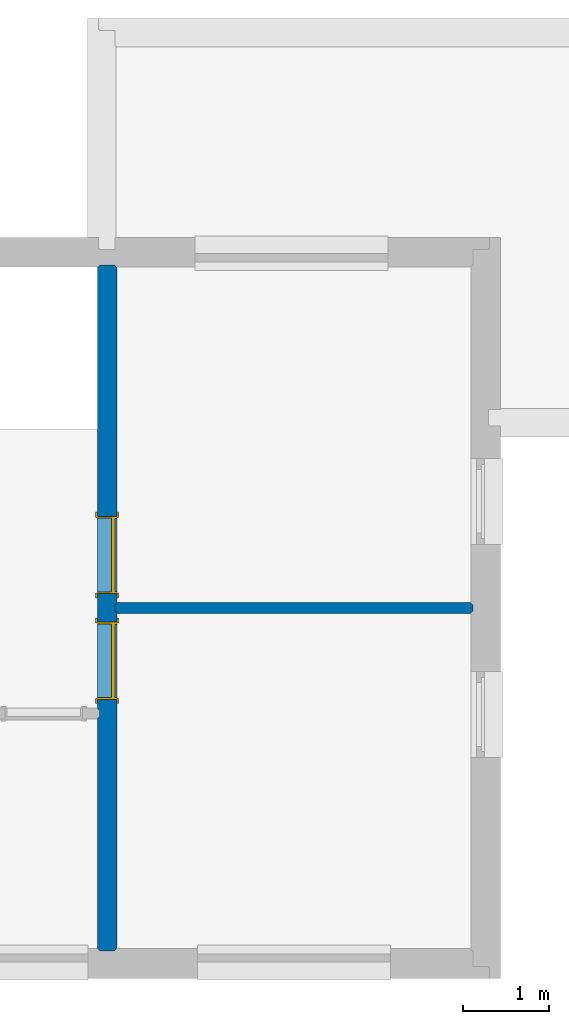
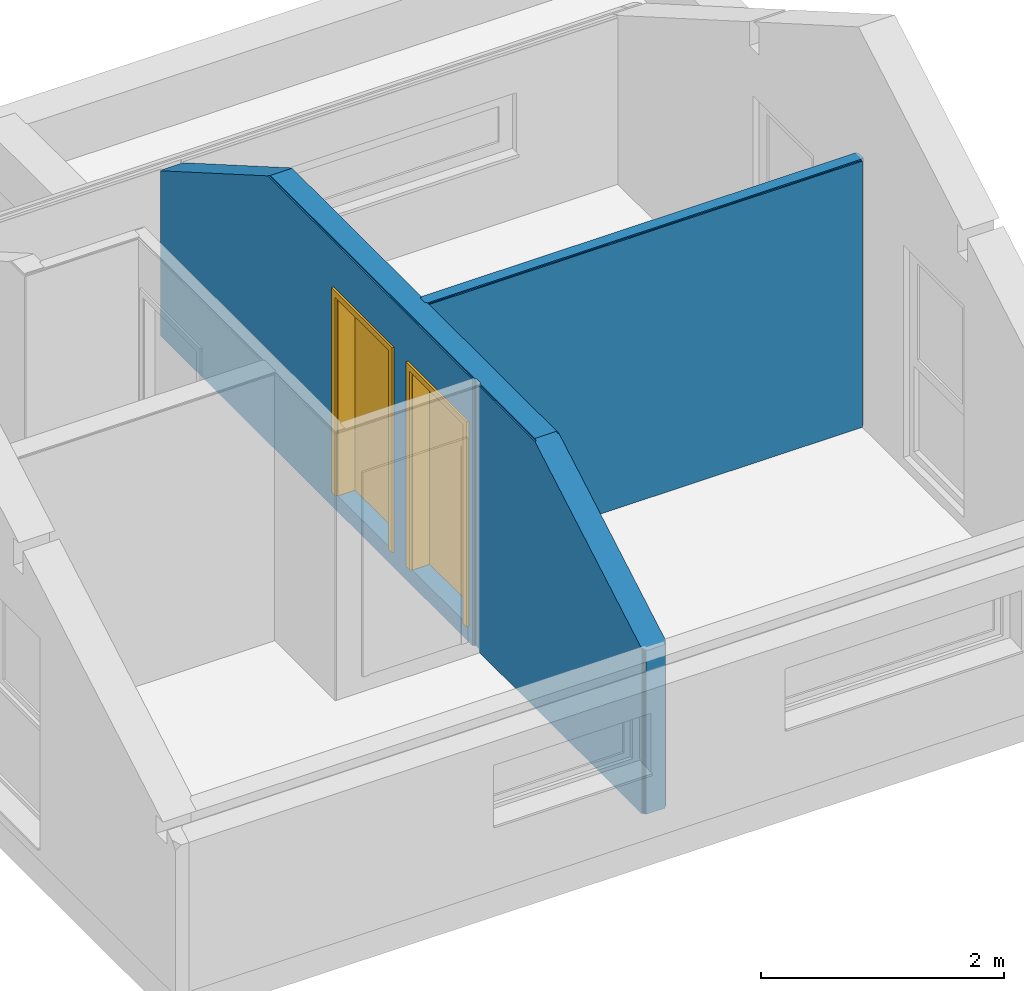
# One storey, part 5 of 7: 2 doors, 2 walls, 2 openings.
"""IFC2X3 building model written with IfcOpenShell, lengths in millimetres."""

from ifc_helpers import new_model, entity, si_unit, converted_unit, derived_unit, money_unit, direction, frame, origin_with_axes, place, context, subcontext, project, spatial, faceted_brep, material, material_list, type_object, element, fill, save


model = new_model("IFC2X3")

# Units and contexts
model_context = context("Model", 3, precision=0.01, world=origin_with_axes(), true_north=direction((0.0, 1.0)))
body_context = subcontext(model_context, "Body", "Model", "MODEL_VIEW")
ifc_project = project(units=[si_unit("LENGTHUNIT", "METRE", prefix="MILLI"), si_unit("AREAUNIT", "SQUARE_METRE"), si_unit("VOLUMEUNIT", "CUBIC_METRE"), converted_unit("PLANEANGLEUNIT", "DEGREE", entity("IfcPlaneAngleMeasure", 0.0174532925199), si_unit("PLANEANGLEUNIT", "RADIAN"), dimensions=[0, 0, 0, 0, 0, 0, 0]), si_unit("SOLIDANGLEUNIT", "STERADIAN"), money_unit("USD"), converted_unit("TIMEUNIT", "Year", entity("IfcTimeMeasure", 31556926.0), si_unit("TIMEUNIT", "SECOND"), dimensions=[0, 0, 1, 0, 0, 0, 0]), si_unit("MASSUNIT", "GRAM", prefix="KILO"), si_unit("THERMODYNAMICTEMPERATUREUNIT", "DEGREE_CELSIUS"), si_unit("LUMINOUSINTENSITYUNIT", "LUMEN"), si_unit("ENERGYUNIT", "JOULE", prefix="MEGA"), derived_unit("THERMALCONDUCTANCEUNIT", [(si_unit("POWERUNIT", "WATT"), 1), (si_unit("LENGTHUNIT", "METRE"), -1), (si_unit("THERMODYNAMICTEMPERATUREUNIT", "KELVIN"), -1)]), derived_unit("SPECIFICHEATCAPACITYUNIT", [(si_unit("ENERGYUNIT", "JOULE"), 1), (si_unit("MASSUNIT", "GRAM", prefix="KILO"), -1), (si_unit("THERMODYNAMICTEMPERATUREUNIT", "KELVIN"), -1)]), derived_unit("MASSDENSITYUNIT", [(si_unit("MASSUNIT", "GRAM", prefix="KILO"), 1), (si_unit("VOLUMEUNIT", "CUBIC_METRE"), -1)])], contexts=[model_context])

# Site, building, storey
site_placement = place(None, origin_with_axes())
site = spatial("IfcSite", under=ifc_project, at=site_placement, Name="Lokalizacja", CompositionType="ELEMENT")
building_placement = place(site_placement, origin_with_axes())
building = spatial("IfcBuilding", under=site, at=building_placement, Name="Budynek", CompositionType="ELEMENT")
storey_placement = place(building_placement, frame((0.0, 0.0, 2954.0), z_axis=(0.0, 0.0, 1.0), x_axis=(1.0, 0.0, 0.0)))
storey = spatial("IfcBuildingStorey", under=building, at=storey_placement, Name="DG", CompositionType="ELEMENT", Elevation=2954.0)

# Wall
ifc_material_1 = material(Name="Płyta GK")
ifc_material_2 = material(Name="Płyta OSB")
ifc_material_3 = material(Name="Drewno konstrukcyjne")
ifc_material_list = material_list([ifc_material_1, ifc_material_2, ifc_material_3, ifc_material_2, ifc_material_1])
wall_type_1 = type_object("IfcWallType", Name="022- _dan_SD_130 130", PredefinedType="NOTDEFINED")
wall_1_placement = place(storey_placement, frame((8640.00006108, -3899.99907417, -160.0), z_axis=(0.0, 0.0, 1.0), x_axis=(-1.0, 0.0, 0.0)))
element("IfcWall", 1, at=wall_1_placement, inside=storey, type_object=wall_type_1, material=ifc_material_list, Name="SW1", context=body_context, shape_type="Brep", body=[
    faceted_brep([(4120.00006107, 117.0, 2678.0), (-6.12343757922e-05, 117.0, 2678.0), (0.0, 117.0, 0.0), (4120.00006107, 117.0, 0.0), (-6.12343757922e-05, 130.0, 2678.0), (4120.00006107, 130.0, 2678.0), (0.0, 130.0, 0.0), (4120.00006107, 130.0, 0.0)], [[[0, 1, 2, 3]], [[4, 1, 0, 5]], [[1, 4, 6, 2]], [[7, 3, 2, 6]], [[5, 0, 3, 7]], [[4, 5, 7, 6]]]),
    faceted_brep([(4133.00006107, 117.0, 2690.0), (-13.0, 117.0, 2690.0), (-13.0, 105.0, 2690.0), (4133.00006107, 105.0, 2690.0), (4133.00006107, 117.0, 0.0), (-13.0, 117.0, 0.0), (-13.0, 105.0, 0.0), (4133.00006107, 105.0, 0.0)], [[[0, 1, 2, 3]], [[4, 5, 1, 0]], [[2, 1, 5, 6]], [[3, 2, 6, 7]], [[3, 7, 4, 0]], [[7, 6, 5, 4]]]),
    faceted_brep([(4145.00006107, 105.0, 2690.0), (-25.0, 105.0, 2690.0), (-25.0, 25.0, 2690.0), (4145.00006107, 25.0, 2690.0), (4145.00006107, 105.0, 0.0), (-25.0, 105.0, 0.0), (-25.0, 25.0, 0.0), (4145.00006107, 25.0, 0.0)], [[[0, 1, 2, 3]], [[4, 5, 1, 0]], [[2, 1, 5, 6]], [[3, 2, 6, 7]], [[3, 7, 4, 0]], [[7, 6, 5, 4]]]),
    faceted_brep([(4133.00006107, 25.0, 2690.0), (-13.0, 25.0, 2690.0), (-13.0, 13.0, 2690.0), (4133.00006107, 13.0, 2690.0), (4133.00006107, 25.0, 0.0), (-13.0, 25.0, 0.0), (-13.0, 13.0, 0.0), (4133.00006107, 13.0, 0.0)], [[[0, 1, 2, 3]], [[4, 5, 1, 0]], [[2, 1, 5, 6]], [[3, 2, 6, 7]], [[3, 7, 4, 0]], [[7, 6, 5, 4]]]),
    faceted_brep([(4120.00006107, 0.0, 2678.0), (-6.12343757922e-05, 0.0, 2678.0), (0.0, 0.0, 0.0), (4120.00006107, 0.0, 0.0), (-6.12343757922e-05, 13.0, 2678.0), (4120.00006107, 13.0, 2678.0), (0.0, 13.0, 0.0), (4120.00006107, 13.0, 0.0)], [[[0, 1, 2, 3]], [[4, 1, 0, 5]], [[1, 4, 6, 2]], [[7, 3, 2, 6]], [[5, 0, 3, 7]], [[4, 5, 7, 6]]]),
])

# Wall, openings, doors
wall_type_2 = type_object("IfcWallType", Name="025- _dan_SW_230 230", PredefinedType="NOTDEFINED")
wall_2_placement = place(storey_placement, frame((4290.0, 1.16616531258e-09, -160.0), z_axis=(0.0, 0.0, 1.0), x_axis=(0.0, -1.0, 0.0)))
wall_2 = element("IfcWall", 2, at=wall_2_placement, inside=storey, type_object=wall_type_2, material=ifc_material_list, Name="SW4", context=body_context, shape_type="Brep", body=[
    faceted_brep([(6166.77259391, 216.999999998, 2678.0), (6166.77259391, 230.000002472, 2678.0), (4016.99907417, 229.999998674, 2678.0), (4016.99907417, 216.999999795, 2678.0), (7929.99728939, 230.000002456, 1660.00174742), (7929.99728939, 217.000000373, 1660.00174742), (7929.99728939, 230.0, 0.0), (4016.99907417, 230.0, 0.0), (4016.99907417, 217.0, 0.0), (7929.99728939, 217.0, 0.0)], [[[0, 1, 2, 3]], [[4, 1, 0, 5]], [[1, 4, 6, 7, 2]], [[3, 2, 7, 8]], [[5, 0, 3, 8, 9]], [[4, 5, 9, 6]], [[7, 6, 9, 8]]]),
    faceted_brep([(0.0, 216.99999921, 1660.00000037), (0.0, 229.999994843, 1660.00000037), (0.0, 230.0, 0.0), (0.0, 217.0, 0.0), (1763.22772146, 229.999999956, 2678.0), (1763.22772146, 216.999999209, 2678.0), (3912.99907417, 229.999998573, 2678.0), (3912.99907417, 230.0, 0.0), (3912.99907417, 217.0, 0.0), (3912.99907417, 216.99999978, 2678.0)], [[[0, 1, 2, 3]], [[4, 1, 0, 5]], [[1, 4, 6, 7, 2]], [[8, 3, 2, 7]], [[5, 0, 3, 8, 9]], [[4, 5, 9, 6]], [[6, 9, 8, 7]]]),
    faceted_brep([(6145.98798421, 205.0, 2690.0), (6145.98798421, 217.000000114, 2690.0), (4004.99907417, 216.999999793, 2690.0), (4004.99907417, 205.0, 2690.0), (7942.99728939, 217.000000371, 1652.49619392), (7942.99728939, 205.0, 1652.49619392), (7942.99728939, 217.0, 0.0), (4004.99907417, 217.0, 0.0), (4004.99907417, 205.0, 0.0), (7942.99728939, 205.0, 0.0)], [[[0, 1, 2, 3]], [[4, 1, 0, 5]], [[1, 4, 6, 7, 2]], [[3, 2, 7, 8]], [[5, 0, 3, 8, 9]], [[4, 5, 9, 6]], [[6, 9, 8, 7]]]),
    faceted_brep([(-13.0, 205.0, 1652.49444687), (-13.0, 216.999999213, 1652.49444687), (-13.0, 217.0, 0.0), (-13.0, 205.0, 0.0), (1784.01233116, 216.999999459, 2690.0), (1784.01233116, 205.0, 2690.0), (3924.99907417, 216.999999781, 2690.0), (3924.99907417, 217.0, 0.0), (3924.99907417, 205.0, 0.0), (3924.99907417, 205.0, 2690.0)], [[[0, 1, 2, 3]], [[4, 1, 0, 5]], [[1, 4, 6, 7, 2]], [[3, 2, 7, 8]], [[5, 0, 3, 8, 9]], [[4, 5, 9, 6]], [[7, 6, 9, 8]]]),
    faceted_brep([(6145.98798421, 25.0, 2690.0), (6145.98798421, 205.0, 2690.0), (1784.01233116, 205.0, 2690.0), (1784.01233116, 25.0, 2690.0), (7954.99728939, 205.0, 1645.56799069), (7954.99728939, 25.0, 1645.56799069), (7954.99728939, 205.0, 0.0), (-25.0, 205.0, 0.0), (-25.0, 205.0, 1645.56624364), (-25.0, 25.0, 1645.56624364), (-25.0, 25.0, 0.0), (7954.99728939, 25.0, 0.0)], [[[0, 1, 2, 3]], [[4, 1, 0, 5]], [[1, 4, 6, 7, 8, 2]], [[8, 9, 3, 2]], [[5, 0, 3, 9, 10, 11]], [[4, 5, 11, 6]], [[11, 10, 7, 6]], [[8, 7, 10, 9]]]),
    faceted_brep([(6145.98798421, 13.0000006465, 2690.0), (6145.98798421, 25.0, 2690.0), (5234.99907417, 25.0, 2690.0), (5234.99907417, 12.9999998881, 2690.0), (7942.99728939, 25.0, 1652.49619392), (7942.99728939, 13.0000020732, 1652.49619392), (7942.99728939, 25.0, 0.0), (5234.99907417, 25.0, 0.0), (5234.99907417, 13.0, 0.0), (7942.99728939, 13.0, 0.0)], [[[0, 1, 2, 3]], [[4, 1, 0, 5]], [[1, 4, 6, 7, 2]], [[3, 2, 7, 8]], [[5, 0, 3, 8, 9]], [[4, 5, 9, 6]], [[6, 9, 8, 7]]]),
    faceted_brep([(-13.0, 12.9999956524, 1652.49444687), (-13.0, 25.0, 1652.49444687), (-13.0, 25.0, 0.0), (-13.0, 13.0, 0.0), (1784.01233116, 25.0, 2690.0), (1784.01233116, 12.9999970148, 2690.0), (5154.99907417, 25.0, 2690.0), (5154.99907417, 25.0, 0.0), (5154.99907417, 13.0, 0.0), (5154.99907417, 12.9999998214, 2690.0)], [[[0, 1, 2, 3]], [[4, 1, 0, 5]], [[1, 4, 6, 7, 2]], [[3, 2, 7, 8]], [[5, 0, 3, 8, 9]], [[4, 5, 9, 6]], [[7, 6, 9, 8]]]),
    faceted_brep([(6166.77259391, 0.0, 2678.0), (6166.77259391, 13.0000020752, 2678.0), (5246.99907417, 12.9999998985, 2678.0), (5246.99907417, 0.0, 2678.0), (7929.99728939, 13.0000020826, 1660.00174742), (7929.99728939, 0.0, 1660.00174742), (7929.99728939, 13.0, 0.0), (5246.99907417, 13.0, 0.0), (5246.99907417, 0.0, 0.0), (7929.99728939, 0.0, 0.0)], [[[0, 1, 2, 3]], [[4, 1, 0, 5]], [[1, 4, 6, 7, 2]], [[3, 2, 7, 8]], [[5, 0, 3, 8, 9]], [[4, 5, 9, 6]], [[7, 6, 9, 8]]]),
    faceted_brep([(0.0, 0.0, 1660.00000037), (0.0, 12.9999956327, 1660.00000037), (0.0, 13.0, 0.0), (0.0, 0.0, 0.0), (1763.22772146, 12.9999999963, 2678.0), (1763.22772146, 0.0, 2678.0), (5142.99907417, 12.9999998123, 2678.0), (5142.99907417, 13.0, 0.0), (5142.99907417, 0.0, 0.0), (5142.99907417, 0.0, 2678.0)], [[[0, 1, 2, 3]], [[4, 1, 0, 5]], [[1, 4, 6, 7, 2]], [[8, 3, 2, 7]], [[5, 0, 3, 8, 9]], [[4, 5, 9, 6]], [[6, 9, 8, 7]]]),
])
opening_1_placement = place(wall_2_placement, frame((3349.99907417, 0.0, 160.0), z_axis=(0.0, 0.0, 1.0), x_axis=(1.0, 0.0, 0.0)))
opening_1 = element("IfcOpeningElement", 3, at=opening_1_placement, cuts=wall_2, Name="D4", context=body_context, shape_type="Brep", body=[
    faceted_brep([(450.0, -230.0, 2010.0), (450.0, -230.0, 0.0), (450.0, 205.0, 0.0), (450.0, 205.0, 2010.0), (-450.0, -230.0, 2010.0), (-450.0, -230.0, 0.0), (-450.0, 205.0, 0.0), (-450.0, 205.0, 2010.0)], [[[0, 1, 2, 3]], [[0, 4, 5, 1]], [[1, 5, 6, 2]], [[3, 2, 6, 7]], [[4, 0, 3, 7]], [[5, 4, 7, 6]]]),
    faceted_brep([(450.0, 460.0, 0.0), (450.0, 460.0, 2010.0), (450.0, 205.0, 2010.0), (450.0, 205.0, 0.0), (-450.0, 460.0, 0.0), (-450.0, 460.0, 2010.0), (-450.0, 205.0, 2010.0), (-450.0, 205.0, 0.0)], [[[0, 1, 2, 3]], [[0, 4, 5, 1]], [[1, 5, 6, 2]], [[3, 2, 6, 7]], [[4, 0, 3, 7]], [[5, 4, 7, 6]]]),
    faceted_brep([(500.0, -255.0, 2060.0), (500.0, -255.0, 0.0), (500.0, 0.0, 0.0), (500.0, 0.0, 2060.0), (-500.0, -255.0, 2060.0), (-500.0, -255.0, 0.0), (-500.0, 0.0, 0.0), (-500.0, 0.0, 2060.0)], [[[0, 1, 2, 3]], [[0, 4, 5, 1]], [[1, 5, 6, 2]], [[3, 2, 6, 7]], [[4, 0, 3, 7]], [[5, 4, 7, 6]]]),
    faceted_brep([(500.0, 485.0, 0.0), (500.0, 485.0, 2060.0), (500.0, 230.0, 2060.0), (500.0, 230.0, 0.0), (-500.0, 485.0, 0.0), (-500.0, 485.0, 2060.0), (-500.0, 230.0, 2060.0), (-500.0, 230.0, 0.0)], [[[0, 1, 2, 3]], [[0, 4, 5, 1]], [[1, 5, 6, 2]], [[3, 2, 6, 7]], [[4, 0, 3, 7]], [[5, 4, 7, 6]]]),
])
opening_2_placement = place(wall_2_placement, frame((4580.00124552, 0.0, 160.0), z_axis=(0.0, 0.0, 1.0), x_axis=(1.0, 0.0, 0.0)))
opening_2 = element("IfcOpeningElement", 4, at=opening_2_placement, cuts=wall_2, Name="D5", context=body_context, shape_type="Brep", body=[
    faceted_brep([(-450.0, 205.0, 2010.0), (-450.0, 205.0, 0.0), (-450.0, -230.0, 0.0), (-450.0, -230.0, 2010.0), (450.0, 205.0, 2010.0), (450.0, 205.0, 0.0), (450.0, -230.0, 0.0), (450.0, -230.0, 2010.0)], [[[0, 1, 2, 3]], [[0, 4, 5, 1]], [[1, 5, 6, 2]], [[3, 2, 6, 7]], [[4, 0, 3, 7]], [[5, 4, 7, 6]]]),
    faceted_brep([(-450.0, 205.0, 0.0), (-450.0, 205.0, 2010.0), (-450.0, 460.0, 2010.0), (-450.0, 460.0, 0.0), (450.0, 205.0, 0.0), (450.0, 205.0, 2010.0), (450.0, 460.0, 2010.0), (450.0, 460.0, 0.0)], [[[0, 1, 2, 3]], [[0, 4, 5, 1]], [[1, 5, 6, 2]], [[3, 2, 6, 7]], [[4, 0, 3, 7]], [[5, 4, 7, 6]]]),
    faceted_brep([(-500.0, 0.0, 2060.0), (-500.0, 0.0, 0.0), (-500.0, -255.0, 0.0), (-500.0, -255.0, 2060.0), (500.0, 0.0, 2060.0), (500.0, 0.0, 0.0), (500.0, -255.0, 0.0), (500.0, -255.0, 2060.0)], [[[0, 1, 2, 3]], [[0, 4, 5, 1]], [[1, 5, 6, 2]], [[3, 2, 6, 7]], [[4, 0, 3, 7]], [[5, 4, 7, 6]]]),
    faceted_brep([(-500.0, 230.0, 0.0), (-500.0, 230.0, 2060.0), (-500.0, 485.0, 2060.0), (-500.0, 485.0, 0.0), (500.0, 230.0, 0.0), (500.0, 230.0, 2060.0), (500.0, 485.0, 2060.0), (500.0, 485.0, 0.0)], [[[0, 1, 2, 3]], [[0, 4, 5, 1]], [[1, 5, 6, 2]], [[3, 2, 6, 7]], [[4, 0, 3, 7]], [[5, 4, 7, 6]]]),
])
door_style_1 = type_object("IfcDoorStyle", Name="Drzwi 24", ConstructionType="NOTDEFINED", OperationType="SINGLE_SWING_RIGHT", ParameterTakesPrecedence=False, Sizeable=False)
door_1_placement = place(opening_1_placement, frame((-450.0, 0.0, 0.0), z_axis=(0.0, 0.0, 1.0), x_axis=(1.0, 0.0, 0.0)))
door_1 = element("IfcDoor", 5, at=door_1_placement, inside=storey, type_object=door_style_1, Name="D4", OverallHeight=2010.0, OverallWidth=900.0, context=body_context, shape_type="Brep", body=[
    faceted_brep([(0.0, 65.0, 0.0), (20.0, 65.0, 0.0), (20.0, 0.0, 0.0), (0.0, 0.0, 0.0), (0.0, 65.0, 2010.0), (20.0, 65.0, 1990.0), (20.0, 0.0, 1990.0), (0.0, 0.0, 2010.0)], [[[0, 1, 2, 3]], [[0, 4, 5, 1]], [[1, 5, 6, 2]], [[3, 2, 6, 7]], [[4, 0, 3, 7]], [[5, 4, 7, 6]]]),
    faceted_brep([(900.0, 65.0, 2010.0), (880.0, 65.0, 1990.0), (880.0, 0.0, 1990.0), (900.0, 0.0, 2010.0), (900.0, 65.0, 0.0), (880.0, 65.0, 0.0), (880.0, 0.0, 0.0), (900.0, 0.0, 0.0)], [[[0, 1, 2, 3]], [[0, 4, 5, 1]], [[1, 5, 6, 2]], [[3, 2, 6, 7]], [[4, 0, 3, 7]], [[5, 4, 7, 6]]]),
    faceted_brep([(20.0, 65.0, 1990.0), (880.0, 65.0, 1990.0), (880.0, 0.0, 1990.0), (20.0, 0.0, 1990.0), (0.0, 65.0, 2010.0), (900.0, 65.0, 2010.0), (900.0, 0.0, 2010.0), (0.0, 0.0, 2010.0)], [[[0, 1, 2, 3]], [[0, 4, 5, 1]], [[1, 5, 6, 2]], [[3, 2, 6, 7]], [[4, 0, 3, 7]], [[5, 4, 7, 6]]]),
    faceted_brep([(-50.0, -20.0, 0.0), (-50.0, 0.0, 0.0), (10.0, 0.0, 0.0), (10.0, -20.0, 0.0), (-50.0, -20.0, 2060.0), (-50.0, 0.0, 2060.0), (10.0, 0.0, 2000.0), (10.0, -20.0, 2000.0)], [[[0, 1, 2, 3]], [[4, 5, 1, 0]], [[1, 5, 6, 2]], [[3, 2, 6, 7]], [[0, 3, 7, 4]], [[7, 6, 5, 4]]]),
    faceted_brep([(950.0, -20.0, 2060.0), (950.0, 0.0, 2060.0), (890.0, 0.0, 2000.0), (890.0, -20.0, 2000.0), (950.0, -20.0, 0.0), (950.0, 0.0, 0.0), (890.0, 0.0, 0.0), (890.0, -20.0, 0.0)], [[[0, 1, 2, 3]], [[4, 5, 1, 0]], [[1, 5, 6, 2]], [[3, 2, 6, 7]], [[0, 3, 7, 4]], [[7, 6, 5, 4]]]),
    faceted_brep([(-50.0, -20.0, 2060.0), (-50.0, 0.0, 2060.0), (10.0, 0.0, 2000.0), (10.0, -20.0, 2000.0), (950.0, -20.0, 2060.0), (950.0, 0.0, 2060.0), (890.0, 0.0, 2000.0), (890.0, -20.0, 2000.0)], [[[0, 1, 2, 3]], [[4, 5, 1, 0]], [[1, 5, 6, 2]], [[3, 2, 6, 7]], [[0, 3, 7, 4]], [[7, 6, 5, 4]]]),
    faceted_brep([(0.0, 205.0, 0.0), (0.0, 230.0, 0.0), (25.0, 230.0, 0.0), (25.0, 205.0, 0.0), (0.0, 205.0, 2010.0), (0.0, 230.0, 2010.0), (25.0, 230.0, 1985.0), (25.0, 205.0, 1985.0)], [[[0, 1, 2, 3]], [[4, 5, 1, 0]], [[1, 5, 6, 2]], [[3, 2, 6, 7]], [[0, 3, 7, 4]], [[7, 6, 5, 4]]]),
    faceted_brep([(900.0, 205.0, 2010.0), (900.0, 230.0, 2010.0), (875.0, 230.0, 1985.0), (875.0, 205.0, 1985.0), (900.0, 205.0, 0.0), (900.0, 230.0, 0.0), (875.0, 230.0, 0.0), (875.0, 205.0, 0.0)], [[[0, 1, 2, 3]], [[4, 5, 1, 0]], [[1, 5, 6, 2]], [[3, 2, 6, 7]], [[0, 3, 7, 4]], [[7, 6, 5, 4]]]),
    faceted_brep([(0.0, 205.0, 2010.0), (0.0, 230.0, 2010.0), (25.0, 230.0, 1985.0), (25.0, 205.0, 1985.0), (900.0, 205.0, 2010.0), (900.0, 230.0, 2010.0), (875.0, 230.0, 1985.0), (875.0, 205.0, 1985.0)], [[[0, 1, 2, 3]], [[4, 5, 1, 0]], [[1, 5, 6, 2]], [[3, 2, 6, 7]], [[0, 3, 7, 4]], [[7, 6, 5, 4]]]),
    faceted_brep([(-50.0, 250.0, 0.0), (10.0, 250.0, 0.0), (10.0, 230.0, 0.0), (-50.0, 230.0, 0.0), (-50.0, 250.0, 2060.0), (10.0, 250.0, 2000.0), (10.0, 230.0, 2000.0), (-50.0, 230.0, 2060.0)], [[[0, 1, 2, 3]], [[0, 4, 5, 1]], [[1, 5, 6, 2]], [[3, 2, 6, 7]], [[4, 0, 3, 7]], [[5, 4, 7, 6]]]),
    faceted_brep([(950.0, 250.0, 2060.0), (890.0, 250.0, 2000.0), (890.0, 230.0, 2000.0), (950.0, 230.0, 2060.0), (950.0, 250.0, 0.0), (890.0, 250.0, 0.0), (890.0, 230.0, 0.0), (950.0, 230.0, 0.0)], [[[0, 1, 2, 3]], [[0, 4, 5, 1]], [[1, 5, 6, 2]], [[3, 2, 6, 7]], [[4, 0, 3, 7]], [[5, 4, 7, 6]]]),
    faceted_brep([(-50.0, 250.0, 2060.0), (10.0, 250.0, 2000.0), (10.0, 230.0, 2000.0), (-50.0, 230.0, 2060.0), (950.0, 250.0, 2060.0), (890.0, 250.0, 2000.0), (890.0, 230.0, 2000.0), (950.0, 230.0, 2060.0)], [[[0, 1, 2, 3]], [[0, 4, 5, 1]], [[1, 5, 6, 2]], [[3, 2, 6, 7]], [[4, 0, 3, 7]], [[5, 4, 7, 6]]]),
    faceted_brep([(0.0, 205.0, 0.0), (20.0, 205.0, 0.0), (20.0, 65.0, 0.0), (0.0, 65.0, 0.0), (0.0, 205.0, 1990.0), (20.0, 205.0, 1990.0), (20.0, 65.0, 1990.0), (0.0, 65.0, 1990.0)], [[[0, 1, 2, 3]], [[0, 4, 5, 1]], [[1, 5, 6, 2]], [[3, 2, 6, 7]], [[4, 0, 3, 7]], [[5, 4, 7, 6]]]),
    faceted_brep([(900.0, 205.0, 0.0), (900.0, 205.0, 1990.0), (900.0, 65.0, 1990.0), (900.0, 65.0, 0.0), (880.0, 205.0, 0.0), (880.0, 205.0, 1990.0), (880.0, 65.0, 1990.0), (880.0, 65.0, 0.0)], [[[0, 1, 2, 3]], [[0, 4, 5, 1]], [[1, 5, 6, 2]], [[3, 2, 6, 7]], [[4, 0, 3, 7]], [[5, 4, 7, 6]]]),
    faceted_brep([(0.0, 205.0, 2010.0), (0.0, 205.0, 1990.0), (0.0, 65.0, 1990.0), (0.0, 65.0, 2010.0), (900.0, 205.0, 2010.0), (900.0, 205.0, 1990.0), (880.0, 205.0, 1990.0), (20.0, 205.0, 1990.0), (20.0, 65.0, 1990.0), (880.0, 65.0, 1990.0), (900.0, 65.0, 1990.0), (900.0, 65.0, 2010.0)], [[[0, 1, 2, 3]], [[0, 4, 5, 6, 7, 1]], [[1, 7, 8, 2]], [[3, 2, 8, 9, 10, 11]], [[4, 0, 3, 11]], [[5, 4, 11, 10]], [[6, 5, 10, 9]], [[7, 6, 9, 8]]]),
    faceted_brep([(880.0, 205.0, 0.0), (880.0, 165.0, 0.0), (20.0, 165.0, 0.0), (20.0, 205.0, 0.0), (880.0, 205.0, 1990.0), (880.0, 165.0, 1990.0), (20.0, 165.0, 1990.0), (20.0, 205.0, 1990.0)], [[[0, 1, 2, 3]], [[4, 5, 1, 0]], [[1, 5, 6, 2]], [[3, 2, 6, 7]], [[0, 3, 7, 4]], [[7, 6, 5, 4]]]),
])
fill(opening_1, door_1)
door_style_2 = type_object("IfcDoorStyle", Name="Drzwi 24", ConstructionType="NOTDEFINED", OperationType="SINGLE_SWING_LEFT", ParameterTakesPrecedence=False, Sizeable=False)
door_2_placement = place(opening_2_placement, frame((-450.0, 0.0, 0.0), z_axis=(0.0, 0.0, 1.0), x_axis=(1.0, 0.0, 0.0)))
door_2 = element("IfcDoor", 6, at=door_2_placement, inside=storey, type_object=door_style_2, Name="D5", OverallHeight=2010.0, OverallWidth=900.0, context=body_context, shape_type="Brep", body=[
    faceted_brep([(900.0, 65.0, 0.0), (900.0, 0.0, 0.0), (880.0, 0.0, 0.0), (880.0, 65.0, 0.0), (900.0, 65.0, 2010.0), (900.0, 0.0, 2010.0), (880.0, 0.0, 1990.0), (880.0, 65.0, 1990.0)], [[[0, 1, 2, 3]], [[4, 5, 1, 0]], [[1, 5, 6, 2]], [[3, 2, 6, 7]], [[0, 3, 7, 4]], [[7, 6, 5, 4]]]),
    faceted_brep([(0.0, 65.0, 2010.0), (0.0, 0.0, 2010.0), (20.0, 0.0, 1990.0), (20.0, 65.0, 1990.0), (0.0, 65.0, 0.0), (0.0, 0.0, 0.0), (20.0, 0.0, 0.0), (20.0, 65.0, 0.0)], [[[0, 1, 2, 3]], [[4, 5, 1, 0]], [[1, 5, 6, 2]], [[3, 2, 6, 7]], [[0, 3, 7, 4]], [[7, 6, 5, 4]]]),
    faceted_brep([(880.0, 65.0, 1990.0), (880.0, 0.0, 1990.0), (20.0, 0.0, 1990.0), (20.0, 65.0, 1990.0), (900.0, 65.0, 2010.0), (900.0, 0.0, 2010.0), (0.0, 0.0, 2010.0), (0.0, 65.0, 2010.0)], [[[0, 1, 2, 3]], [[4, 5, 1, 0]], [[1, 5, 6, 2]], [[3, 2, 6, 7]], [[0, 3, 7, 4]], [[7, 6, 5, 4]]]),
    faceted_brep([(950.0, -20.0, 0.0), (890.0, -20.0, 0.0), (890.0, 0.0, 0.0), (950.0, 0.0, 0.0), (950.0, -20.0, 2060.0), (890.0, -20.0, 2000.0), (890.0, 0.0, 2000.0), (950.0, 0.0, 2060.0)], [[[0, 1, 2, 3]], [[0, 4, 5, 1]], [[1, 5, 6, 2]], [[3, 2, 6, 7]], [[4, 0, 3, 7]], [[5, 4, 7, 6]]]),
    faceted_brep([(-50.0, -20.0, 2060.0), (10.0, -20.0, 2000.0), (10.0, 0.0, 2000.0), (-50.0, 0.0, 2060.0), (-50.0, -20.0, 0.0), (10.0, -20.0, 0.0), (10.0, 0.0, 0.0), (-50.0, 0.0, 0.0)], [[[0, 1, 2, 3]], [[0, 4, 5, 1]], [[1, 5, 6, 2]], [[3, 2, 6, 7]], [[4, 0, 3, 7]], [[5, 4, 7, 6]]]),
    faceted_brep([(950.0, -20.0, 2060.0), (890.0, -20.0, 2000.0), (890.0, 0.0, 2000.0), (950.0, 0.0, 2060.0), (-50.0, -20.0, 2060.0), (10.0, -20.0, 2000.0), (10.0, 0.0, 2000.0), (-50.0, 0.0, 2060.0)], [[[0, 1, 2, 3]], [[0, 4, 5, 1]], [[1, 5, 6, 2]], [[3, 2, 6, 7]], [[4, 0, 3, 7]], [[5, 4, 7, 6]]]),
    faceted_brep([(900.0, 205.0, 0.0), (875.0, 205.0, 0.0), (875.0, 230.0, 0.0), (900.0, 230.0, 0.0), (900.0, 205.0, 2010.0), (875.0, 205.0, 1985.0), (875.0, 230.0, 1985.0), (900.0, 230.0, 2010.0)], [[[0, 1, 2, 3]], [[0, 4, 5, 1]], [[1, 5, 6, 2]], [[3, 2, 6, 7]], [[4, 0, 3, 7]], [[5, 4, 7, 6]]]),
    faceted_brep([(0.0, 205.0, 2010.0), (25.0, 205.0, 1985.0), (25.0, 230.0, 1985.0), (0.0, 230.0, 2010.0), (0.0, 205.0, 0.0), (25.0, 205.0, 0.0), (25.0, 230.0, 0.0), (0.0, 230.0, 0.0)], [[[0, 1, 2, 3]], [[0, 4, 5, 1]], [[1, 5, 6, 2]], [[3, 2, 6, 7]], [[4, 0, 3, 7]], [[5, 4, 7, 6]]]),
    faceted_brep([(900.0, 205.0, 2010.0), (875.0, 205.0, 1985.0), (875.0, 230.0, 1985.0), (900.0, 230.0, 2010.0), (0.0, 205.0, 2010.0), (25.0, 205.0, 1985.0), (25.0, 230.0, 1985.0), (0.0, 230.0, 2010.0)], [[[0, 1, 2, 3]], [[0, 4, 5, 1]], [[1, 5, 6, 2]], [[3, 2, 6, 7]], [[4, 0, 3, 7]], [[5, 4, 7, 6]]]),
    faceted_brep([(950.0, 250.0, 0.0), (950.0, 230.0, 0.0), (890.0, 230.0, 0.0), (890.0, 250.0, 0.0), (950.0, 250.0, 2060.0), (950.0, 230.0, 2060.0), (890.0, 230.0, 2000.0), (890.0, 250.0, 2000.0)], [[[0, 1, 2, 3]], [[4, 5, 1, 0]], [[1, 5, 6, 2]], [[3, 2, 6, 7]], [[0, 3, 7, 4]], [[7, 6, 5, 4]]]),
    faceted_brep([(-50.0, 250.0, 2060.0), (-50.0, 230.0, 2060.0), (10.0, 230.0, 2000.0), (10.0, 250.0, 2000.0), (-50.0, 250.0, 0.0), (-50.0, 230.0, 0.0), (10.0, 230.0, 0.0), (10.0, 250.0, 0.0)], [[[0, 1, 2, 3]], [[4, 5, 1, 0]], [[1, 5, 6, 2]], [[3, 2, 6, 7]], [[0, 3, 7, 4]], [[7, 6, 5, 4]]]),
    faceted_brep([(950.0, 250.0, 2060.0), (950.0, 230.0, 2060.0), (890.0, 230.0, 2000.0), (890.0, 250.0, 2000.0), (-50.0, 250.0, 2060.0), (-50.0, 230.0, 2060.0), (10.0, 230.0, 2000.0), (10.0, 250.0, 2000.0)], [[[0, 1, 2, 3]], [[4, 5, 1, 0]], [[1, 5, 6, 2]], [[3, 2, 6, 7]], [[0, 3, 7, 4]], [[7, 6, 5, 4]]]),
    faceted_brep([(900.0, 205.0, 0.0), (900.0, 65.0, 0.0), (880.0, 65.0, 0.0), (880.0, 205.0, 0.0), (900.0, 205.0, 1990.0), (900.0, 65.0, 1990.0), (880.0, 65.0, 1990.0), (880.0, 205.0, 1990.0)], [[[0, 1, 2, 3]], [[4, 5, 1, 0]], [[1, 5, 6, 2]], [[3, 2, 6, 7]], [[0, 3, 7, 4]], [[7, 6, 5, 4]]]),
    faceted_brep([(0.0, 205.0, 0.0), (0.0, 65.0, 0.0), (0.0, 65.0, 1990.0), (0.0, 205.0, 1990.0), (20.0, 205.0, 0.0), (20.0, 65.0, 0.0), (20.0, 65.0, 1990.0), (20.0, 205.0, 1990.0)], [[[0, 1, 2, 3]], [[4, 5, 1, 0]], [[1, 5, 6, 2]], [[3, 2, 6, 7]], [[0, 3, 7, 4]], [[7, 6, 5, 4]]]),
    faceted_brep([(900.0, 205.0, 2010.0), (900.0, 65.0, 2010.0), (900.0, 65.0, 1990.0), (900.0, 205.0, 1990.0), (0.0, 205.0, 2010.0), (0.0, 65.0, 2010.0), (0.0, 65.0, 1990.0), (20.0, 65.0, 1990.0), (880.0, 65.0, 1990.0), (880.0, 205.0, 1990.0), (20.0, 205.0, 1990.0), (0.0, 205.0, 1990.0)], [[[0, 1, 2, 3]], [[4, 5, 1, 0]], [[1, 5, 6, 7, 8, 2]], [[3, 2, 8, 9]], [[0, 3, 9, 10, 11, 4]], [[11, 6, 5, 4]], [[10, 7, 6, 11]], [[9, 8, 7, 10]]]),
    faceted_brep([(20.0, 205.0, 0.0), (880.0, 205.0, 0.0), (880.0, 165.0, 0.0), (20.0, 165.0, 0.0), (20.0, 205.0, 1990.0), (880.0, 205.0, 1990.0), (880.0, 165.0, 1990.0), (20.0, 165.0, 1990.0)], [[[0, 1, 2, 3]], [[0, 4, 5, 1]], [[1, 5, 6, 2]], [[3, 2, 6, 7]], [[4, 0, 3, 7]], [[5, 4, 7, 6]]]),
])
fill(opening_2, door_2)

save(model, "model.ifc")
